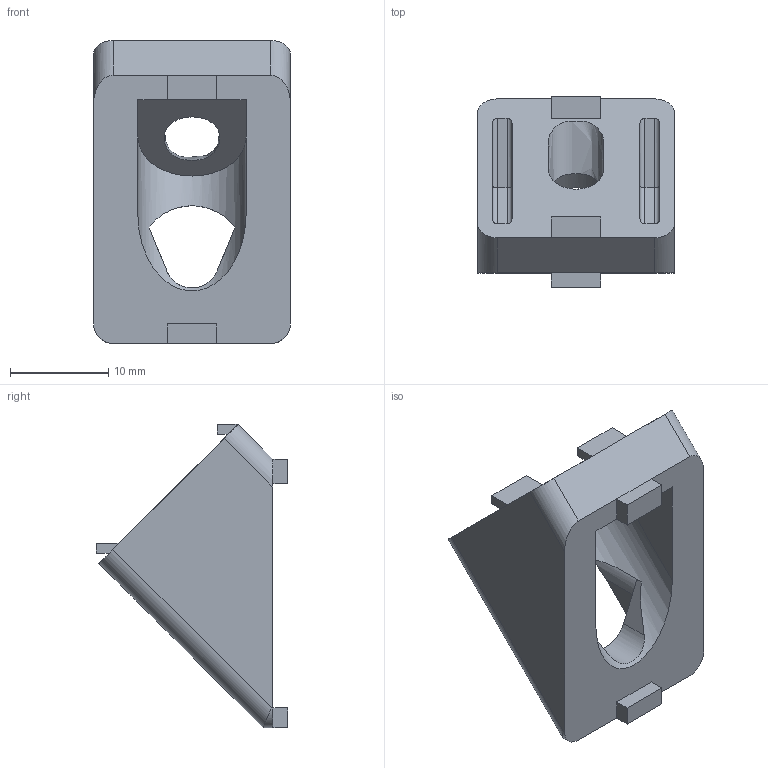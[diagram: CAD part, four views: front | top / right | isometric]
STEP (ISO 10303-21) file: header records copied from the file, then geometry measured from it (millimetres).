
FILE_DESCRIPTION( ( 'STEP AP214' ), '1' );
FILE_NAME( 'p:/temp/worker_79/temp/exporttempdir_6640_381_1DIHG/format_0/093WS20145N05R.stp', '2022-02-23T15:51:51', ( 'License CC BY-ND 4.0' ), ( 'CADENAS' ), ' ', 'PARTsolutions', ' ' );
FILE_SCHEMA( ( 'AUTOMOTIVE_DESIGN { 1 0 10303 214 1 1 1 1 }' ) );
Length unit declared in the file: millimetre
Products named in the file (1): _093WS20145N05R
Bounding box: 20 x 19.45 x 30.82 mm (x, y, z)
Volume: 3899.9 mm3; surface area: 2716.1 mm2
Topology: 1 solids, 1 shells, 66 faces, 185 edges, 124 vertices
Faces by surface type: plane 44, cylinder 21, bspline 1
Entity records: 2805 total; most frequent: CARTESIAN_POINT 551, ORIENTED_EDGE 368, DIRECTION 334, EDGE_CURVE 184, LINE 130, VECTOR 130, VERTEX_POINT 124, AXIS2_PLACEMENT_3D 102
